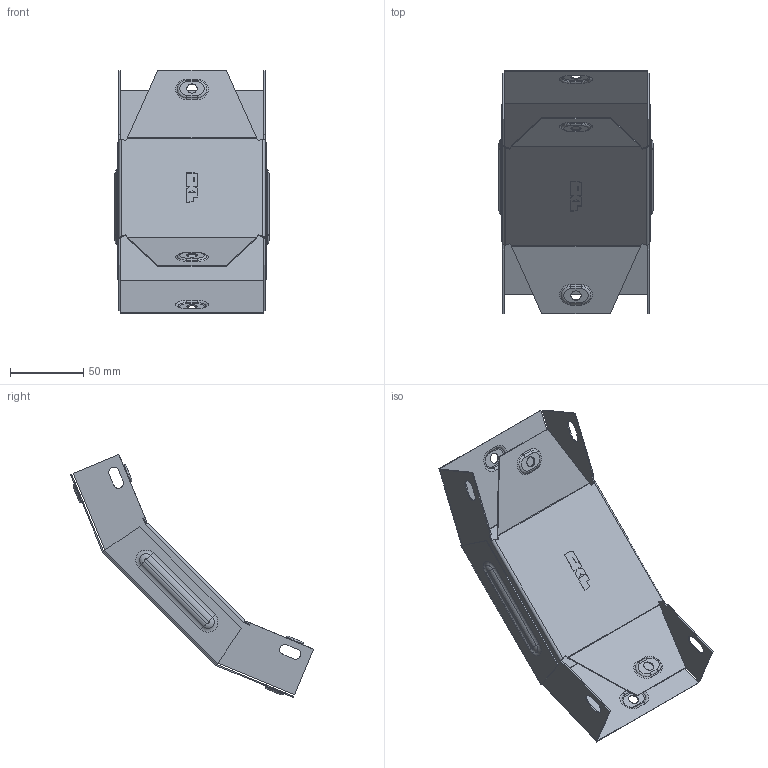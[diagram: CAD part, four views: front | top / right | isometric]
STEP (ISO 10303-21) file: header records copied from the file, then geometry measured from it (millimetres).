
FILE_DESCRIPTION (( 'STEP AP214' ), '1' );
FILE_NAME ('vo4535100_捘.STEP', '2019-06-10T08:16:26', ( '砐錪賧瘔蠈錪 Windows' ), ( '' ), 'SwSTEP 2.0', 'SolidWorks 2018', '' );
FILE_SCHEMA (( 'AUTOMOTIVE_DESIGN' ));
Length unit declared in the file: millimetre
Products named in the file (1): vo4535100_捘
Bounding box: 105.6 x 166.28 x 166.28 mm (x, y, z)
Volume: 46744.4 mm3; surface area: 118550.7 mm2
Topology: 2 solids, 2 shells, 436 faces, 1092 edges, 688 vertices
Faces by surface type: plane 234, cylinder 112, torus 64, bspline 26
Entity records: 14045 total; most frequent: CARTESIAN_POINT 3521, ORIENTED_EDGE 2184, DIRECTION 2150, EDGE_CURVE 1092, LINE 720, VECTOR 720, AXIS2_PLACEMENT_3D 715, VERTEX_POINT 688
